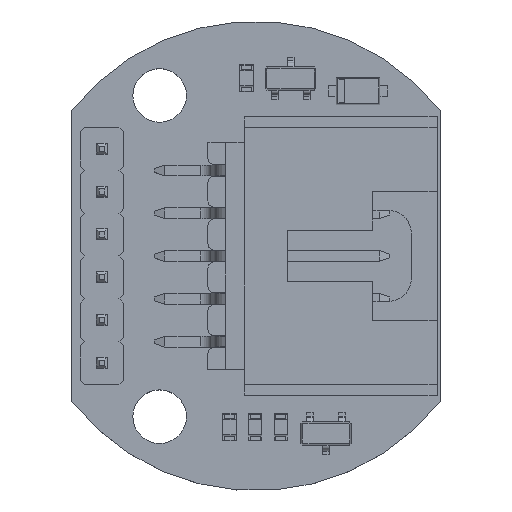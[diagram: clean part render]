
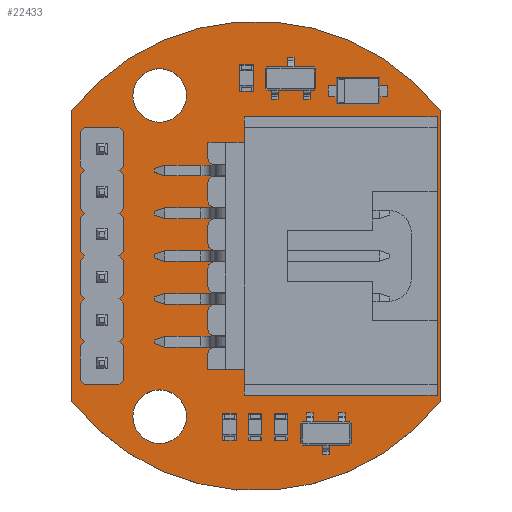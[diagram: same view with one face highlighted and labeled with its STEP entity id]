
A CAD part, top view. The second image highlights one B-rep face of the part: STEP entity #22433.
In plain terms, the highlighted planar face has unit normal (0, 0, 1).
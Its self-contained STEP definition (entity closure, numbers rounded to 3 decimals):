
#22200 = VERTEX_POINT('',#22201);
#22201 = CARTESIAN_POINT('',(219.634,-114.935,1.6));
#22207 = EDGE_CURVE('',#22200,#22208,#22210,.T.);
#22208 = VERTEX_POINT('',#22209);
#22209 = CARTESIAN_POINT('',(241.478,-114.935,1.6));
#22210 = CIRCLE('',#22211,13.916);
#22211 = AXIS2_PLACEMENT_3D('',#22212,#22213,#22214);
#22212 = CARTESIAN_POINT('',(230.556,-123.558,1.6));
#22213 = DIRECTION('',(0.,0.,-1.));
#22214 = DIRECTION('',(-0.785,0.62,0.));
#22242 = VERTEX_POINT('',#22243);
#22243 = CARTESIAN_POINT('',(219.634,-132.207,1.6));
#22249 = EDGE_CURVE('',#22242,#22200,#22250,.T.);
#22250 = LINE('',#22251,#22252);
#22251 = CARTESIAN_POINT('',(219.634,-132.207,1.6));
#22252 = VECTOR('',#22253,1.);
#22253 = DIRECTION('',(0.,1.,0.));
#22271 = EDGE_CURVE('',#22208,#22272,#22274,.T.);
#22272 = VERTEX_POINT('',#22273);
#22273 = CARTESIAN_POINT('',(241.478,-132.207,1.6));
#22274 = LINE('',#22275,#22276);
#22275 = CARTESIAN_POINT('',(241.478,-114.935,1.6));
#22276 = VECTOR('',#22277,1.);
#22277 = DIRECTION('',(0.,-1.,0.));
#22433 = ADVANCED_FACE('',(#22434,#22454,#22465,#22476,#22487,#22498,
    #22509,#22520,#22531,#22542,#22553),#22564,.T.);
#22434 = FACE_BOUND('',#22435,.T.);
#22435 = EDGE_LOOP('',(#22436,#22437,#22438,#22446,#22453));
#22436 = ORIENTED_EDGE('',*,*,#22207,.F.);
#22437 = ORIENTED_EDGE('',*,*,#22249,.F.);
#22438 = ORIENTED_EDGE('',*,*,#22439,.F.);
#22439 = EDGE_CURVE('',#22440,#22242,#22442,.T.);
#22440 = VERTEX_POINT('',#22441);
#22441 = CARTESIAN_POINT('',(219.64,-132.215,1.6));
#22442 = LINE('',#22443,#22444);
#22443 = CARTESIAN_POINT('',(219.64,-132.215,1.6));
#22444 = VECTOR('',#22445,1.);
#22445 = DIRECTION('',(-0.621,0.784,0.));
#22446 = ORIENTED_EDGE('',*,*,#22447,.F.);
#22447 = EDGE_CURVE('',#22272,#22440,#22448,.T.);
#22448 = CIRCLE('',#22449,13.932);
#22449 = AXIS2_PLACEMENT_3D('',#22450,#22451,#22452);
#22450 = CARTESIAN_POINT('',(230.556,-123.558,1.6));
#22451 = DIRECTION('',(-0.,0.,-1.));
#22452 = DIRECTION('',(0.784,-0.621,-0.));
#22453 = ORIENTED_EDGE('',*,*,#22271,.F.);
#22454 = FACE_BOUND('',#22455,.T.);
#22455 = EDGE_LOOP('',(#22456));
#22456 = ORIENTED_EDGE('',*,*,#22457,.T.);
#22457 = EDGE_CURVE('',#22458,#22458,#22460,.T.);
#22458 = VERTEX_POINT('',#22459);
#22459 = CARTESIAN_POINT('',(224.841,-134.684,1.6));
#22460 = CIRCLE('',#22461,1.588);
#22461 = AXIS2_PLACEMENT_3D('',#22462,#22463,#22464);
#22462 = CARTESIAN_POINT('',(224.841,-133.096,1.6));
#22463 = DIRECTION('',(-0.,0.,-1.));
#22464 = DIRECTION('',(-0.,-1.,0.));
#22465 = FACE_BOUND('',#22466,.T.);
#22466 = EDGE_LOOP('',(#22467));
#22467 = ORIENTED_EDGE('',*,*,#22468,.T.);
#22468 = EDGE_CURVE('',#22469,#22469,#22471,.T.);
#22469 = VERTEX_POINT('',#22470);
#22470 = CARTESIAN_POINT('',(221.412,-130.421,1.6));
#22471 = CIRCLE('',#22472,0.5);
#22472 = AXIS2_PLACEMENT_3D('',#22473,#22474,#22475);
#22473 = CARTESIAN_POINT('',(221.412,-129.921,1.6));
#22474 = DIRECTION('',(-0.,0.,-1.));
#22475 = DIRECTION('',(-0.,-1.,0.));
#22476 = FACE_BOUND('',#22477,.T.);
#22477 = EDGE_LOOP('',(#22478));
#22478 = ORIENTED_EDGE('',*,*,#22479,.T.);
#22479 = EDGE_CURVE('',#22480,#22480,#22482,.T.);
#22480 = VERTEX_POINT('',#22481);
#22481 = CARTESIAN_POINT('',(221.412,-127.881,1.6));
#22482 = CIRCLE('',#22483,0.5);
#22483 = AXIS2_PLACEMENT_3D('',#22484,#22485,#22486);
#22484 = CARTESIAN_POINT('',(221.412,-127.381,1.6));
#22485 = DIRECTION('',(-0.,0.,-1.));
#22486 = DIRECTION('',(-0.,-1.,0.));
#22487 = FACE_BOUND('',#22488,.T.);
#22488 = EDGE_LOOP('',(#22489));
#22489 = ORIENTED_EDGE('',*,*,#22490,.T.);
#22490 = EDGE_CURVE('',#22491,#22491,#22493,.T.);
#22491 = VERTEX_POINT('',#22492);
#22492 = CARTESIAN_POINT('',(221.412,-125.341,1.6));
#22493 = CIRCLE('',#22494,0.5);
#22494 = AXIS2_PLACEMENT_3D('',#22495,#22496,#22497);
#22495 = CARTESIAN_POINT('',(221.412,-124.841,1.6));
#22496 = DIRECTION('',(-0.,0.,-1.));
#22497 = DIRECTION('',(-0.,-1.,0.));
#22498 = FACE_BOUND('',#22499,.T.);
#22499 = EDGE_LOOP('',(#22500));
#22500 = ORIENTED_EDGE('',*,*,#22501,.T.);
#22501 = EDGE_CURVE('',#22502,#22502,#22504,.T.);
#22502 = VERTEX_POINT('',#22503);
#22503 = CARTESIAN_POINT('',(237.178,-131.751,1.6));
#22504 = CIRCLE('',#22505,1.7);
#22505 = AXIS2_PLACEMENT_3D('',#22506,#22507,#22508);
#22506 = CARTESIAN_POINT('',(237.178,-130.051,1.6));
#22507 = DIRECTION('',(-0.,0.,-1.));
#22508 = DIRECTION('',(-0.,-1.,0.));
#22509 = FACE_BOUND('',#22510,.T.);
#22510 = EDGE_LOOP('',(#22511));
#22511 = ORIENTED_EDGE('',*,*,#22512,.T.);
#22512 = EDGE_CURVE('',#22513,#22513,#22515,.T.);
#22513 = VERTEX_POINT('',#22514);
#22514 = CARTESIAN_POINT('',(221.412,-122.801,1.6));
#22515 = CIRCLE('',#22516,0.5);
#22516 = AXIS2_PLACEMENT_3D('',#22517,#22518,#22519);
#22517 = CARTESIAN_POINT('',(221.412,-122.301,1.6));
#22518 = DIRECTION('',(-0.,0.,-1.));
#22519 = DIRECTION('',(-0.,-1.,0.));
#22520 = FACE_BOUND('',#22521,.T.);
#22521 = EDGE_LOOP('',(#22522));
#22522 = ORIENTED_EDGE('',*,*,#22523,.T.);
#22523 = EDGE_CURVE('',#22524,#22524,#22526,.T.);
#22524 = VERTEX_POINT('',#22525);
#22525 = CARTESIAN_POINT('',(221.412,-120.261,1.6));
#22526 = CIRCLE('',#22527,0.5);
#22527 = AXIS2_PLACEMENT_3D('',#22528,#22529,#22530);
#22528 = CARTESIAN_POINT('',(221.412,-119.761,1.6));
#22529 = DIRECTION('',(-0.,0.,-1.));
#22530 = DIRECTION('',(-0.,-1.,0.));
#22531 = FACE_BOUND('',#22532,.T.);
#22532 = EDGE_LOOP('',(#22533));
#22533 = ORIENTED_EDGE('',*,*,#22534,.T.);
#22534 = EDGE_CURVE('',#22535,#22535,#22537,.T.);
#22535 = VERTEX_POINT('',#22536);
#22536 = CARTESIAN_POINT('',(221.412,-117.721,1.6));
#22537 = CIRCLE('',#22538,0.5);
#22538 = AXIS2_PLACEMENT_3D('',#22539,#22540,#22541);
#22539 = CARTESIAN_POINT('',(221.412,-117.221,1.6));
#22540 = DIRECTION('',(-0.,0.,-1.));
#22541 = DIRECTION('',(-0.,-1.,0.));
#22542 = FACE_BOUND('',#22543,.T.);
#22543 = EDGE_LOOP('',(#22544));
#22544 = ORIENTED_EDGE('',*,*,#22545,.T.);
#22545 = EDGE_CURVE('',#22546,#22546,#22548,.T.);
#22546 = VERTEX_POINT('',#22547);
#22547 = CARTESIAN_POINT('',(224.841,-115.634,1.6));
#22548 = CIRCLE('',#22549,1.588);
#22549 = AXIS2_PLACEMENT_3D('',#22550,#22551,#22552);
#22550 = CARTESIAN_POINT('',(224.841,-114.046,1.6));
#22551 = DIRECTION('',(-0.,0.,-1.));
#22552 = DIRECTION('',(-0.,-1.,0.));
#22553 = FACE_BOUND('',#22554,.T.);
#22554 = EDGE_LOOP('',(#22555));
#22555 = ORIENTED_EDGE('',*,*,#22556,.T.);
#22556 = EDGE_CURVE('',#22557,#22557,#22559,.T.);
#22557 = VERTEX_POINT('',#22558);
#22558 = CARTESIAN_POINT('',(237.178,-118.791,1.6));
#22559 = CIRCLE('',#22560,1.7);
#22560 = AXIS2_PLACEMENT_3D('',#22561,#22562,#22563);
#22561 = CARTESIAN_POINT('',(237.178,-117.091,1.6));
#22562 = DIRECTION('',(-0.,0.,-1.));
#22563 = DIRECTION('',(-0.,-1.,0.));
#22564 = PLANE('',#22565);
#22565 = AXIS2_PLACEMENT_3D('',#22566,#22567,#22568);
#22566 = CARTESIAN_POINT('',(0.,0.,1.6));
#22567 = DIRECTION('',(0.,0.,1.));
#22568 = DIRECTION('',(1.,0.,-0.));
